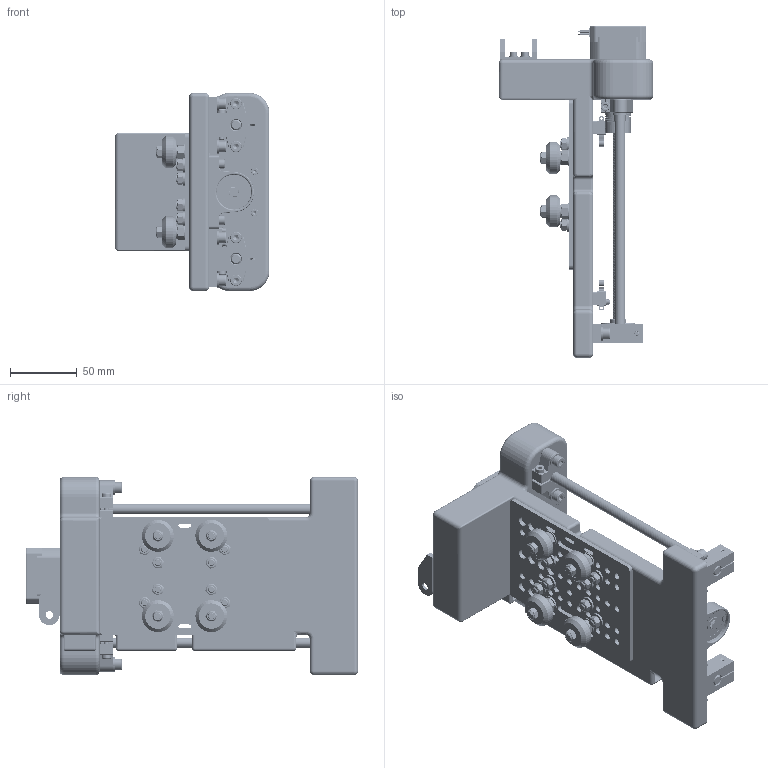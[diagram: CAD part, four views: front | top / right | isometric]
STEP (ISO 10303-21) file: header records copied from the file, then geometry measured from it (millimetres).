
FILE_DESCRIPTION(/* description */ (''),/* implementation_level */ '2;1');
FILE_NAME(/* name */ 'Z-Axis Plate Only.stp',/* time_stamp */ '2026-11-15T11:13:31+02:00',/* author */ ('Ahmed'),/* organization */ (''),/* preprocessor_version */ 'ST-DEVELOPER v20.2',/* originating_system */ 'Autodesk Inventor 2027',/* authorisation */ '');
FILE_SCHEMA (('AUTOMOTIVE_DESIGN { 1 0 10303 214 3 1 1 }'));
Products named in the file (30): Z-Axis; 17HM15-0904S; Flexible_Shaft_Coupling_5_to_8mm v7; Z Bracket; Trapezoidal lead screw tr8x8-4; M4 Insert; ISO 4762 - M3 x 16; Document; ISO 4762 - M3 x 12; ANSI B18.22M - 3 N; Limit Switch Spacer; NO/NC Bump Switch; ISO 4032 - M2; ISO 4762 - M2 x 16; ANSI B18.22M - 2 N; 127x88 Gantry; V-Pulley; ISO 4032 - M5; KP08 Pillow block bearing 08mm diameter; Bearing Spacer; ISO 4762 - M4 x 16; Linear Guide Rods; SHF8; SHF8_MIR; SK8 Linear Shaft Support, 8mm v4; Document_1; ISO 4762 - M5 x 20; ANSI B18.22M - 5 N; ISO 4762 - M5 x 16; Bloc 02
Assembly tree (96 placements, depth 2):
  Z-Axis
    17HM15-0904S
    Flexible_Shaft_Coupling_5_to_8mm v7
    Z Bracket
    Trapezoidal lead screw tr8x8-4
    M4 Insert  x2
    ISO 4762 - M3 x 16  x4
    Limit Switch Spacer  x2
    Document  x2
    ISO 4762 - M3 x 12  x2
    ANSI B18.22M - 3 N  x2
    ANSI B18.22M - 2 N  x4
    NO/NC Bump Switch  x2
    ISO 4032 - M2  x4
    ISO 4762 - M2 x 16  x4
    127x88 Gantry
    V-Pulley  x4
    ISO 4762 - M5 x 20  x12
    ISO 4032 - M5  x8
    ANSI B18.22M - 5 N  x16
    KP08 Pillow block bearing 08mm diameter
    ISO 4762 - M4 x 16  x2
    Bearing Spacer
    Linear Guide Rods  x2
    SHF8
    SHF8_MIR
    SK8 Linear Shaft Support, 8mm v4  x2
    Document_1  x8
    ISO 4762 - M5 x 16  x4
    Bloc 02
Bounding box: 115.72 x 248 x 148 mm (x, y, z)
Volume: 830699.9 mm3; surface area: 243083 mm2
Topology: 150 solids, 150 shells, 4986 faces, 12589 edges, 8059 vertices
Faces by surface type: cylinder 1754, plane 1711, bspline 1026, cone 320, torus 149, sphere 26
Full cylindrical faces by diameter (mm): 0.25 x6, 0.559 x4, 1.567 x4, 1.615 x4, 1.8 x6, 2 x4, 2.3 x4, 2.35 x46, 2.4 x4, 2.5 x22, 2.529 x42, 3 x54, 3.091 x26, 3.5 x6, 3.8 x4, 3.961 x80, 4 x44, 4.1 x4, 4.109 x22, 4.134 x8, 4.5 x4, 4.62 x2, 5 x187, 5.2 x4, 5.3 x2, 5.5 x22, 5.55 x2, 5.6 x32, 5.66 x2, 5.7 x2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
Entity records: 168366 total; most frequent: CARTESIAN_POINT 108019, ORIENTED_EDGE 12830, DIRECTION 11201, EDGE_CURVE 6415, AXIS2_PLACEMENT_3D 4157, VERTEX_POINT 4127, EDGE_LOOP 2908, LINE 2887
